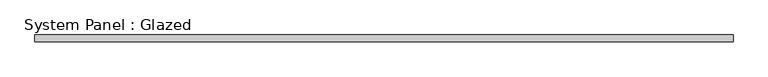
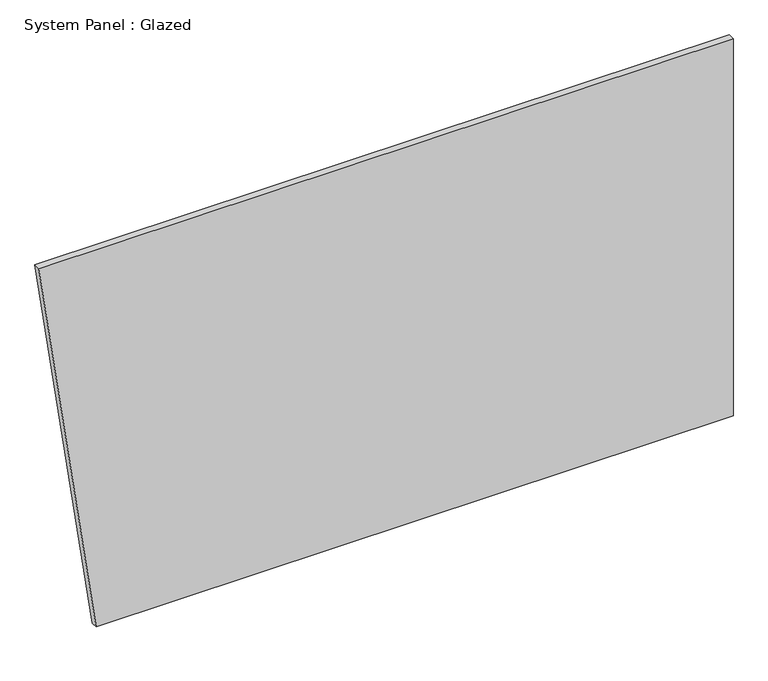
"""IFC4 building model written with IfcOpenShell, lengths in millimetres: plate geometry, System Panel : Glazed."""

from ifc_helpers import new_model, si_unit, frame, origin, place, context, project, spatial, polyline, outline, extrude, source, transform, mapped, element, save


def system_panel_glazed_b419dbc8(model_context):
    return source(origin(), model_context, "Body", "SweptSolid", [
        extrude(outline(polyline([(0.0, -1107.3669066), (0.0, 1326.6474822), (1524.0, 1326.6474822), (1524.0, -1326.6474822), (0.0, -1107.3669066)])), frame((0.0, 19.05, 0.0), z_axis=(0.0, 1.0, 0.0), x_axis=(0.0, 0.0, 1.0)), (0.0, 0.0, 1.0), 25.4),
    ])


if __name__ == "__main__":
    model = new_model("IFC4")
    model_context = context("Model", 3, world=origin())
    ifc_project = project(units=[si_unit("LENGTHUNIT", "METRE", prefix="MILLI")], contexts=[model_context])
    site = spatial("IfcSite", under=ifc_project)
    building = spatial("IfcBuilding", under=site)
    placement = place(None, origin())
    system_panel_glazed_shape = system_panel_glazed_b419dbc8(model_context)
    element("IfcPlate", 1, ObjectType="System Panel : Glazed", at=placement, inside=building, context=model_context, shape_type="MappedRepresentation", body=[
        mapped(system_panel_glazed_shape, transform((0.0, 0.0, 0.0), x_axis=(1.0, 0.0, 0.0), y_axis=(0.0, 1.0, 0.0), z_axis=(0.0, 0.0, 1.0))),
    ])
    save(model, "model.ifc")
